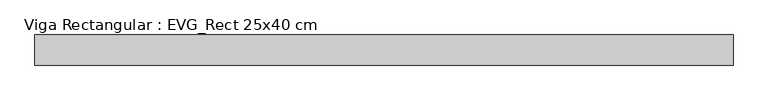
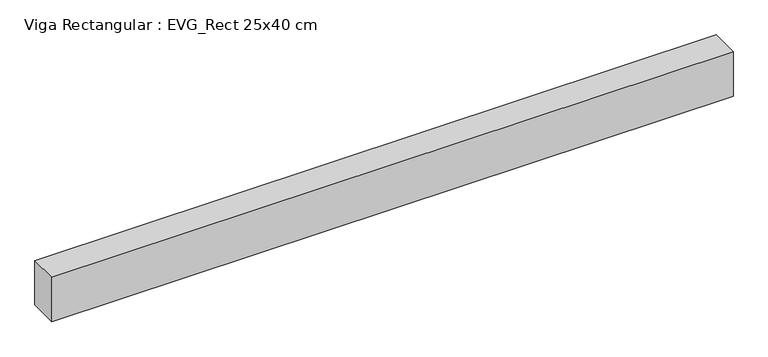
"""IFC4 building model written with IfcOpenShell, lengths in millimetres: beam geometry, Viga Rectangular : EVG_Rect 25x40 cm."""

from ifc_helpers import new_model, si_unit, frame, origin, place, context, project, spatial, polyline, outline, extrude, source, transform, mapped, element, save


def viga_rectangular_evg_rect_25x40_cm_2bdd148a(model_context):
    return source(origin(), model_context, "Body", "SweptSolid", [
        extrude(outline(polyline([(3075.0, 125.0), (3075.0, -125.0), (-2725.0, -125.0), (-2725.0, 125.0), (3075.0, 125.0)])), frame((0.0, 0.0, -400.0), z_axis=(0.0, 0.0, 1.0), x_axis=(1.0, 0.0, 0.0)), (0.0, 0.0, 1.0), 400.0),
    ])


if __name__ == "__main__":
    model = new_model("IFC4")
    model_context = context("Model", 3, world=origin())
    ifc_project = project(units=[si_unit("LENGTHUNIT", "METRE", prefix="MILLI")], contexts=[model_context])
    site = spatial("IfcSite", under=ifc_project)
    building = spatial("IfcBuilding", under=site)
    placement = place(None, origin())
    viga_rectangular_evg_rect_25x40_cm_shape = viga_rectangular_evg_rect_25x40_cm_2bdd148a(model_context)
    element("IfcBeam", 1, ObjectType="Viga Rectangular : EVG_Rect 25x40 cm", at=placement, inside=building, context=model_context, shape_type="MappedRepresentation", body=[
        mapped(viga_rectangular_evg_rect_25x40_cm_shape, transform((0.0, 0.0, 0.0), x_axis=(1.0, 0.0, 0.0), y_axis=(0.0, 1.0, 0.0), z_axis=(0.0, 0.0, 1.0))),
    ])
    save(model, "model.ifc")
